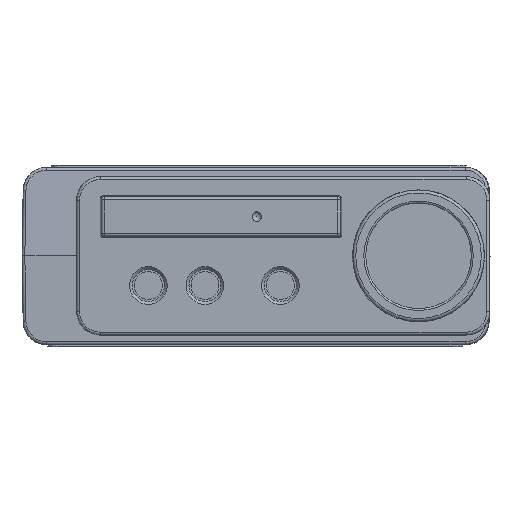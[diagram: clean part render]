
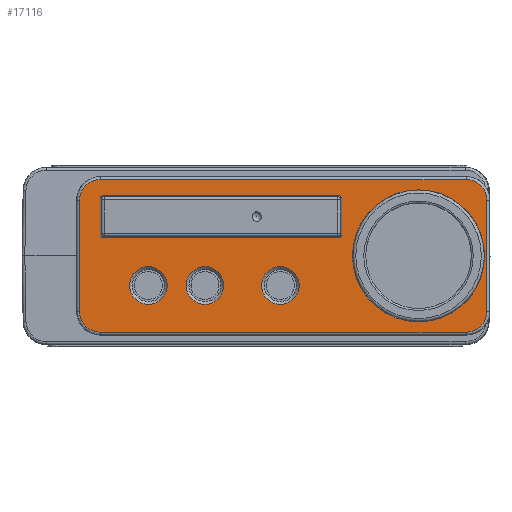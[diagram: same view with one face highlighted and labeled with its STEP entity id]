
A CAD part, top view. The second image highlights one B-rep face of the part: STEP entity #17116.
In plain terms, the highlighted planar face has unit normal (0, 0, 1).
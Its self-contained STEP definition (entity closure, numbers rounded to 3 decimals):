
#326=ELLIPSE('',#18184,0.3,0.3);
#327=ELLIPSE('',#18185,0.3,0.3);
#328=ELLIPSE('',#18186,0.3,0.3);
#329=ELLIPSE('',#18187,0.3,0.3);
#530=FACE_BOUND('',#1733,.T.);
#531=FACE_BOUND('',#1734,.T.);
#532=FACE_BOUND('',#1735,.T.);
#533=FACE_BOUND('',#1736,.T.);
#534=FACE_BOUND('',#1737,.T.);
#802=FACE_OUTER_BOUND('',#1732,.T.);
#1732=EDGE_LOOP('',(#11796,#11797,#11798,#11799,#11800,#11801,#11802,#11803));
#1733=EDGE_LOOP('',(#11804));
#1734=EDGE_LOOP('',(#11805));
#1735=EDGE_LOOP('',(#11806,#11807,#11808,#11809,#11810,#11811,#11812,#11813));
#1736=EDGE_LOOP('',(#11814));
#1737=EDGE_LOOP('',(#11815));
#2616=CIRCLE('',#18176,2.);
#2617=CIRCLE('',#18178,2.2);
#2618=CIRCLE('',#18179,2.2);
#2619=CIRCLE('',#18180,2.2);
#2620=CIRCLE('',#18181,2.2);
#2621=CIRCLE('',#18182,2.);
#2622=CIRCLE('',#18183,7.);
#2623=CIRCLE('',#18188,2.);
#3244=LINE('',#25016,#5150);
#3245=LINE('',#25020,#5151);
#3246=LINE('',#25024,#5152);
#3247=LINE('',#25028,#5153);
#3248=LINE('',#25036,#5154);
#3249=LINE('',#25040,#5155);
#3250=LINE('',#25044,#5156);
#3251=LINE('',#25048,#5157);
#5150=VECTOR('',#20305,10.);
#5151=VECTOR('',#20308,10.);
#5152=VECTOR('',#20311,10.);
#5153=VECTOR('',#20314,10.);
#5154=VECTOR('',#20321,10.);
#5155=VECTOR('',#20324,10.);
#5156=VECTOR('',#20327,10.);
#5157=VECTOR('',#20330,10.);
#7020=VERTEX_POINT('',#25011);
#7021=VERTEX_POINT('',#25014);
#7022=VERTEX_POINT('',#25015);
#7023=VERTEX_POINT('',#25017);
#7024=VERTEX_POINT('',#25019);
#7025=VERTEX_POINT('',#25021);
#7026=VERTEX_POINT('',#25023);
#7027=VERTEX_POINT('',#25025);
#7028=VERTEX_POINT('',#25027);
#7029=VERTEX_POINT('',#25030);
#7030=VERTEX_POINT('',#25032);
#7031=VERTEX_POINT('',#25034);
#7032=VERTEX_POINT('',#25035);
#7033=VERTEX_POINT('',#25037);
#7034=VERTEX_POINT('',#25039);
#7035=VERTEX_POINT('',#25041);
#7036=VERTEX_POINT('',#25043);
#7037=VERTEX_POINT('',#25045);
#7038=VERTEX_POINT('',#25047);
#7039=VERTEX_POINT('',#25050);
#8809=EDGE_CURVE('',#7020,#7020,#2616,.T.);
#8810=EDGE_CURVE('',#7021,#7022,#3244,.T.);
#8811=EDGE_CURVE('',#7023,#7021,#2617,.T.);
#8812=EDGE_CURVE('',#7024,#7023,#3245,.T.);
#8813=EDGE_CURVE('',#7025,#7024,#2618,.T.);
#8814=EDGE_CURVE('',#7026,#7025,#3246,.T.);
#8815=EDGE_CURVE('',#7027,#7026,#2619,.T.);
#8816=EDGE_CURVE('',#7028,#7027,#3247,.T.);
#8817=EDGE_CURVE('',#7022,#7028,#2620,.T.);
#8818=EDGE_CURVE('',#7029,#7029,#2621,.T.);
#8819=EDGE_CURVE('',#7030,#7030,#2622,.T.);
#8820=EDGE_CURVE('',#7031,#7032,#3248,.T.);
#8821=EDGE_CURVE('',#7033,#7032,#326,.F.);
#8822=EDGE_CURVE('',#7034,#7033,#3249,.T.);
#8823=EDGE_CURVE('',#7035,#7034,#327,.F.);
#8824=EDGE_CURVE('',#7035,#7036,#3250,.T.);
#8825=EDGE_CURVE('',#7037,#7036,#328,.F.);
#8826=EDGE_CURVE('',#7037,#7038,#3251,.T.);
#8827=EDGE_CURVE('',#7031,#7038,#329,.F.);
#8828=EDGE_CURVE('',#7039,#7039,#2623,.T.);
#11796=ORIENTED_EDGE('',*,*,#8810,.F.);
#11797=ORIENTED_EDGE('',*,*,#8811,.F.);
#11798=ORIENTED_EDGE('',*,*,#8812,.F.);
#11799=ORIENTED_EDGE('',*,*,#8813,.F.);
#11800=ORIENTED_EDGE('',*,*,#8814,.F.);
#11801=ORIENTED_EDGE('',*,*,#8815,.F.);
#11802=ORIENTED_EDGE('',*,*,#8816,.F.);
#11803=ORIENTED_EDGE('',*,*,#8817,.F.);
#11804=ORIENTED_EDGE('',*,*,#8818,.F.);
#11805=ORIENTED_EDGE('',*,*,#8819,.T.);
#11806=ORIENTED_EDGE('',*,*,#8820,.T.);
#11807=ORIENTED_EDGE('',*,*,#8821,.F.);
#11808=ORIENTED_EDGE('',*,*,#8822,.F.);
#11809=ORIENTED_EDGE('',*,*,#8823,.F.);
#11810=ORIENTED_EDGE('',*,*,#8824,.T.);
#11811=ORIENTED_EDGE('',*,*,#8825,.F.);
#11812=ORIENTED_EDGE('',*,*,#8826,.T.);
#11813=ORIENTED_EDGE('',*,*,#8827,.F.);
#11814=ORIENTED_EDGE('',*,*,#8828,.F.);
#11815=ORIENTED_EDGE('',*,*,#8809,.F.);
#15593=PLANE('',#18177);
#17116=ADVANCED_FACE('',(#802,#530,#531,#532,#533,#534),#15593,.F.);
#18176=AXIS2_PLACEMENT_3D('',#25012,#20301,#20302);
#18177=AXIS2_PLACEMENT_3D('',#25013,#20303,#20304);
#18178=AXIS2_PLACEMENT_3D('',#25018,#20306,#20307);
#18179=AXIS2_PLACEMENT_3D('',#25022,#20309,#20310);
#18180=AXIS2_PLACEMENT_3D('',#25026,#20312,#20313);
#18181=AXIS2_PLACEMENT_3D('',#25029,#20315,#20316);
#18182=AXIS2_PLACEMENT_3D('',#25031,#20317,#20318);
#18183=AXIS2_PLACEMENT_3D('',#25033,#20319,#20320);
#18184=AXIS2_PLACEMENT_3D('',#25038,#20322,#20323);
#18185=AXIS2_PLACEMENT_3D('',#25042,#20325,#20326);
#18186=AXIS2_PLACEMENT_3D('',#25046,#20328,#20329);
#18187=AXIS2_PLACEMENT_3D('',#25049,#20331,#20332);
#18188=AXIS2_PLACEMENT_3D('',#25051,#20333,#20334);
#20301=DIRECTION('center_axis',(0.,0.,1.));
#20302=DIRECTION('ref_axis',(-1.,0.,0.));
#20303=DIRECTION('center_axis',(0.,0.,-1.));
#20304=DIRECTION('ref_axis',(-1.,0.,0.));
#20305=DIRECTION('',(0.,-1.,0.));
#20306=DIRECTION('center_axis',(0.,0.,-1.));
#20307=DIRECTION('ref_axis',(1.,0.,0.));
#20308=DIRECTION('',(1.,0.,0.));
#20309=DIRECTION('center_axis',(0.,0.,-1.));
#20310=DIRECTION('ref_axis',(0.,1.,0.));
#20311=DIRECTION('',(0.,1.,0.));
#20312=DIRECTION('center_axis',(0.,0.,-1.));
#20313=DIRECTION('ref_axis',(-1.,0.,0.));
#20314=DIRECTION('',(-1.,0.,0.));
#20315=DIRECTION('center_axis',(0.,0.,-1.));
#20316=DIRECTION('ref_axis',(0.,-1.,0.));
#20317=DIRECTION('center_axis',(0.,0.,1.));
#20318=DIRECTION('ref_axis',(-1.,0.,0.));
#20319=DIRECTION('center_axis',(0.,0.,-1.));
#20320=DIRECTION('ref_axis',(-1.,0.,0.));
#20321=DIRECTION('',(1.,0.,0.));
#20322=DIRECTION('center_axis',(0.,0.,-1.));
#20323=DIRECTION('ref_axis',(0.707,0.707,0.));
#20324=DIRECTION('',(0.,1.,0.));
#20325=DIRECTION('center_axis',(0.,0.,-1.));
#20326=DIRECTION('ref_axis',(0.707,-0.707,0.));
#20327=DIRECTION('',(-1.,0.,0.));
#20328=DIRECTION('center_axis',(0.,0.,-1.));
#20329=DIRECTION('ref_axis',(-0.707,-0.707,0.));
#20330=DIRECTION('',(0.,1.,0.));
#20331=DIRECTION('center_axis',(0.,0.,-1.));
#20332=DIRECTION('ref_axis',(-0.707,0.707,0.));
#20333=DIRECTION('center_axis',(0.,0.,1.));
#20334=DIRECTION('ref_axis',(-1.,0.,0.));
#25011=CARTESIAN_POINT('',(1.7,-3.15,2.4));
#25012=CARTESIAN_POINT('Origin',(-0.3,-3.15,2.4));
#25013=CARTESIAN_POINT('Origin',(14.05,0.,2.4));
#25014=CARTESIAN_POINT('',(21.593,5.895,2.4));
#25015=CARTESIAN_POINT('',(21.594,-5.894,2.4));
#25016=CARTESIAN_POINT('',(21.594,0.,2.4));
#25017=CARTESIAN_POINT('',(19.394,8.095,2.4));
#25018=CARTESIAN_POINT('Origin',(19.394,5.895,2.4));
#25019=CARTESIAN_POINT('',(-19.394,8.095,2.4));
#25020=CARTESIAN_POINT('',(7.025,8.095,2.4));
#25021=CARTESIAN_POINT('',(-21.593,5.895,2.4));
#25022=CARTESIAN_POINT('Origin',(-19.394,5.895,2.4));
#25023=CARTESIAN_POINT('',(-21.594,-5.894,2.4));
#25024=CARTESIAN_POINT('',(-21.594,0.001,2.4));
#25025=CARTESIAN_POINT('',(-19.394,-8.095,2.4));
#25026=CARTESIAN_POINT('Origin',(-19.394,-5.895,2.4));
#25027=CARTESIAN_POINT('',(19.394,-8.095,2.4));
#25028=CARTESIAN_POINT('',(7.025,-8.095,2.4));
#25029=CARTESIAN_POINT('Origin',(19.394,-5.895,2.4));
#25030=CARTESIAN_POINT('',(-6.3,-3.15,2.4));
#25031=CARTESIAN_POINT('Origin',(-8.3,-3.15,2.4));
#25032=CARTESIAN_POINT('',(21.35,0.,2.4));
#25033=CARTESIAN_POINT('Origin',(14.35,0.,2.4));
#25034=CARTESIAN_POINT('',(-19.1,6.35,2.4));
#25035=CARTESIAN_POINT('',(5.9,6.35,2.4));
#25036=CARTESIAN_POINT('',(-0.825,6.35,2.4));
#25037=CARTESIAN_POINT('',(6.2,6.05,2.4));
#25038=CARTESIAN_POINT('Origin',(5.9,6.05,2.4));
#25039=CARTESIAN_POINT('',(6.2,2.25,2.4));
#25040=CARTESIAN_POINT('',(6.2,8.4,2.4));
#25041=CARTESIAN_POINT('',(5.9,1.95,2.4));
#25042=CARTESIAN_POINT('Origin',(5.9,2.25,2.4));
#25043=CARTESIAN_POINT('',(-19.1,1.95,2.4));
#25044=CARTESIAN_POINT('',(-14.875,1.95,2.4));
#25045=CARTESIAN_POINT('',(-19.4,2.25,2.4));
#25046=CARTESIAN_POINT('Origin',(-19.1,2.25,2.4));
#25047=CARTESIAN_POINT('',(-19.4,6.05,2.4));
#25048=CARTESIAN_POINT('',(-19.4,1.95,2.4));
#25049=CARTESIAN_POINT('Origin',(-19.1,6.05,2.4));
#25050=CARTESIAN_POINT('',(-12.3,-3.15,2.4));
#25051=CARTESIAN_POINT('Origin',(-14.3,-3.15,2.4));
